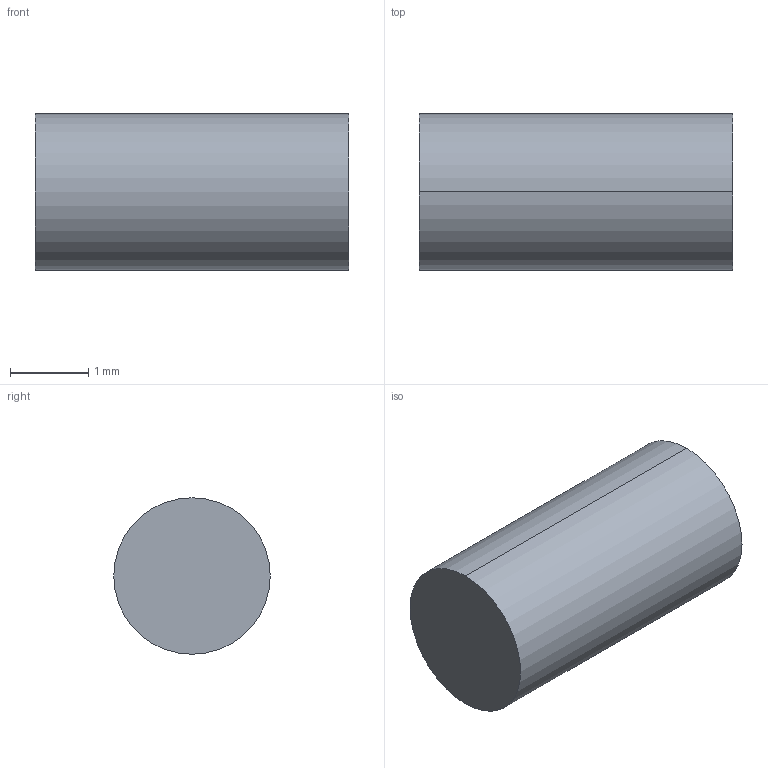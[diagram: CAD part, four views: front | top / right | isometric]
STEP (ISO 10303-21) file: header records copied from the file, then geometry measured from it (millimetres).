
FILE_DESCRIPTION (( 'STEP AP214' ), '1' );
FILE_NAME ('55.2-ND-2-4.step', '2022-09-29T09:40:35', ( '' ), ( '' ), 'SwSTEP 2.0', 'SolidWorks 2022', '' );
FILE_SCHEMA (( 'AUTOMOTIVE_DESIGN' ));
Length unit declared in the file: millimetre
Products named in the file (1): 55.2-ND-2-4
Bounding box: 4 x 2 x 2 mm (x, y, z)
Volume: 12.6 mm3; surface area: 31.4 mm2
Topology: 1 solids, 1 shells, 4 faces, 6 edges, 4 vertices
Faces by surface type: cylinder 2, plane 2
Entity records: 128 total; most frequent: DIRECTION 20, CARTESIAN_POINT 15, ORIENTED_EDGE 12, AXIS2_PLACEMENT_3D 9, EDGE_CURVE 6, FACE_OUTER_BOUND 4, VERTEX_POINT 4, ADVANCED_FACE 4
